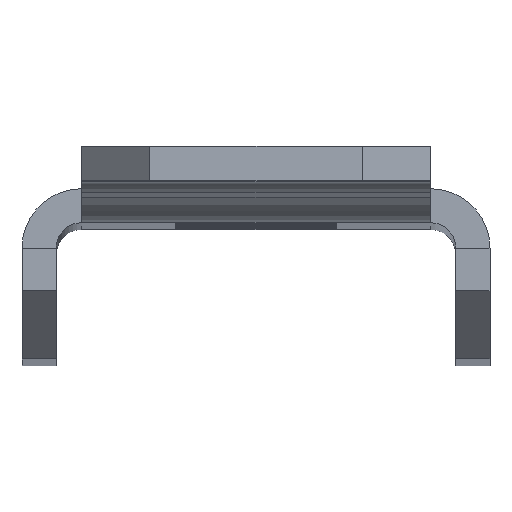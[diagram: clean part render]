
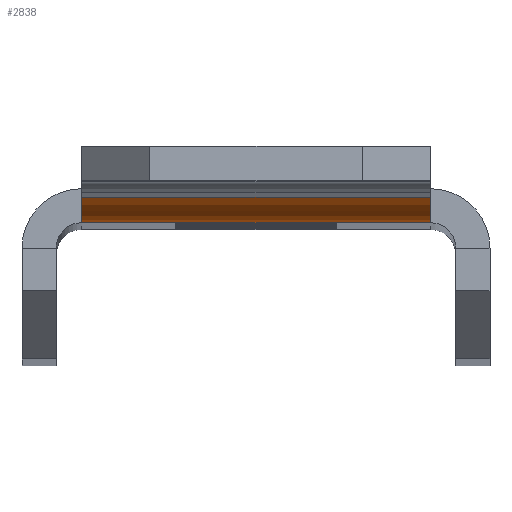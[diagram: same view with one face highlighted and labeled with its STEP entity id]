
A CAD part, top view. The second image highlights one B-rep face of the part: STEP entity #2838.
In plain terms, the highlighted cylindrical face has radius 3.5 mm (diameter 7 mm), a partial arc.
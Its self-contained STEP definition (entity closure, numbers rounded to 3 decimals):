
#10 = VERTEX_POINT ( 'NONE', #1330 ) ;
#66 = LINE ( 'NONE', #1026, #286 ) ;
#232 = CARTESIAN_POINT ( 'NONE',  ( 10.25, -0.508, 117.545 ) ) ;
#234 = CARTESIAN_POINT ( 'NONE',  ( 10.25, 1.5, 114.678 ) ) ;
#286 = VECTOR ( 'NONE', #3458, 1000. ) ;
#328 = FACE_OUTER_BOUND ( 'NONE', #1936, .T. ) ;
#422 = LINE ( 'NONE', #1177, #3269 ) ;
#582 = DIRECTION ( 'NONE',  ( -1., 0., 0. ) ) ;
#743 = CARTESIAN_POINT ( 'NONE',  ( 10.25, -2., 114.678 ) ) ;
#882 = DIRECTION ( 'NONE',  ( 0., 0., -1. ) ) ;
#1026 = CARTESIAN_POINT ( 'NONE',  ( 10.25, -2., 114.678 ) ) ;
#1177 = CARTESIAN_POINT ( 'NONE',  ( -10.25, -0.508, 117.545 ) ) ;
#1308 = CIRCLE ( 'NONE', #3495, 3.5 ) ;
#1330 = CARTESIAN_POINT ( 'NONE',  ( -10.25, -0.508, 117.545 ) ) ;
#1604 = VERTEX_POINT ( 'NONE', #743 ) ;
#1707 = DIRECTION ( 'NONE',  ( 0., -0.574, 0.819 ) ) ;
#1863 = VERTEX_POINT ( 'NONE', #232 ) ;
#1936 = EDGE_LOOP ( 'NONE', ( #2252, #3082, #3382, #3406 ) ) ;
#2160 = CARTESIAN_POINT ( 'NONE',  ( -10.25, -2., 114.678 ) ) ;
#2252 = ORIENTED_EDGE ( 'NONE', *, *, #3184, .F. ) ;
#2324 = CIRCLE ( 'NONE', #3569, 3.5 ) ;
#2400 = CARTESIAN_POINT ( 'NONE',  ( -10.25, 1.5, 114.678 ) ) ;
#2485 = CARTESIAN_POINT ( 'NONE',  ( 10.25, 1.5, 114.678 ) ) ;
#2502 = VERTEX_POINT ( 'NONE', #2160 ) ;
#2516 = EDGE_CURVE ( 'NONE', #1863, #1604, #2324, .T. ) ;
#2690 = AXIS2_PLACEMENT_3D ( 'NONE', #234, #3874, #1707 ) ;
#2734 = DIRECTION ( 'NONE',  ( 1., 0., 0. ) ) ;
#2765 = DIRECTION ( 'NONE',  ( 0., 0., -1. ) ) ;
#2838 = ADVANCED_FACE ( 'NONE', ( #328 ), #3236, .T. ) ;
#3067 = DIRECTION ( 'NONE',  ( -1., 0., 0. ) ) ;
#3079 = EDGE_CURVE ( 'NONE', #2502, #10, #1308, .T. ) ;
#3082 = ORIENTED_EDGE ( 'NONE', *, *, #2516, .F. ) ;
#3083 = EDGE_CURVE ( 'NONE', #1863, #10, #422, .T. ) ;
#3184 = EDGE_CURVE ( 'NONE', #1604, #2502, #66, .T. ) ;
#3236 = CYLINDRICAL_SURFACE ( 'NONE', #2690, 3.5 ) ;
#3269 = VECTOR ( 'NONE', #3067, 1000. ) ;
#3382 = ORIENTED_EDGE ( 'NONE', *, *, #3083, .T. ) ;
#3406 = ORIENTED_EDGE ( 'NONE', *, *, #3079, .F. ) ;
#3458 = DIRECTION ( 'NONE',  ( -1., 0., 0. ) ) ;
#3495 = AXIS2_PLACEMENT_3D ( 'NONE', #2400, #582, #882 ) ;
#3569 = AXIS2_PLACEMENT_3D ( 'NONE', #2485, #2734, #2765 ) ;
#3874 = DIRECTION ( 'NONE',  ( 1., 0., 0. ) ) ;
